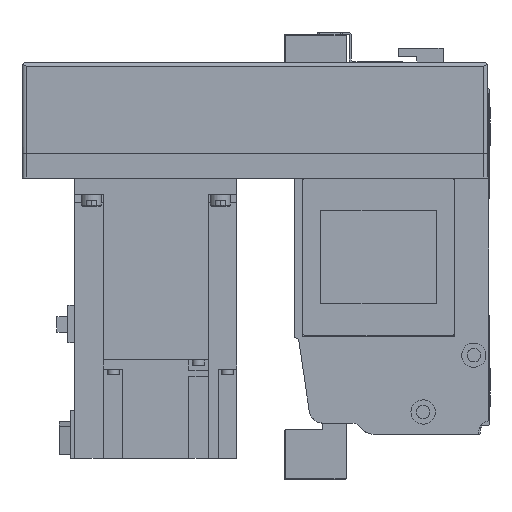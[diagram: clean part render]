
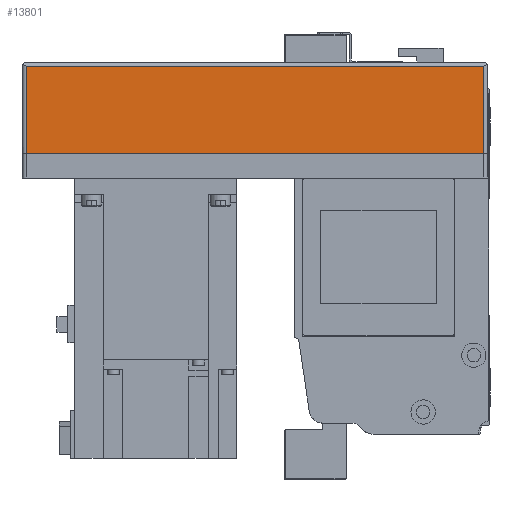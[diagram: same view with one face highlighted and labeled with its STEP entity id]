
A CAD part, left-side view. The second image highlights one B-rep face of the part: STEP entity #13801.
In plain terms, the highlighted planar face has unit normal (-1, 0, 0) as drawn and (0, 1, 0) by its records, which use the part's own axes.
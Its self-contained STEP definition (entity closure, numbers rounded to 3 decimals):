
#2492=ORIENTED_EDGE('',*,*,#5736,.F.);
#2493=ORIENTED_EDGE('',*,*,#5676,.T.);
#2494=ORIENTED_EDGE('',*,*,#5737,.F.);
#2495=ORIENTED_EDGE('',*,*,#5671,.F.);
#5671=EDGE_CURVE('',#7442,#7443,#8888,.T.);
#5676=EDGE_CURVE('',#7448,#7447,#8890,.T.);
#5736=EDGE_CURVE('',#7448,#7442,#8933,.T.);
#5737=EDGE_CURVE('',#7443,#7447,#8934,.T.);
#7442=VERTEX_POINT('',#21592);
#7443=VERTEX_POINT('',#21594);
#7447=VERTEX_POINT('',#21603);
#7448=VERTEX_POINT('',#21605);
#8888=LINE('',#21593,#10201);
#8890=LINE('',#21604,#10203);
#8933=LINE('',#21727,#10246);
#8934=LINE('',#21728,#10247);
#10201=VECTOR('',#17253,1000.);
#10203=VECTOR('',#17263,1000.);
#10246=VECTOR('',#17384,1000.);
#10247=VECTOR('',#17385,1000.);
#11354=EDGE_LOOP('',(#2492,#2493,#2494,#2495));
#12369=FACE_BOUND('',#11354,.T.);
#13216=PLANE('',#14828);
#13801=ADVANCED_FACE('',(#12369),#13216,.T.);
#14828=AXIS2_PLACEMENT_3D('',#21726,#17382,#17383);
#17253=DIRECTION('',(0.,0.,1.));
#17263=DIRECTION('',(0.,0.,1.));
#17382=DIRECTION('',(0.,1.,0.));
#17383=DIRECTION('',(0.,0.,1.));
#17384=DIRECTION('',(1.,0.,0.));
#17385=DIRECTION('',(-1.,0.,0.));
#21592=CARTESIAN_POINT('',(-2.,54.,-55.));
#21593=CARTESIAN_POINT('',(-2.,54.,-57.));
#21594=CARTESIAN_POINT('',(-2.,54.,-12.));
#21603=CARTESIAN_POINT('',(-228.,54.,-12.));
#21604=CARTESIAN_POINT('',(-228.,54.,-57.));
#21605=CARTESIAN_POINT('',(-228.,54.,-55.));
#21726=CARTESIAN_POINT('',(-2.,54.,-57.));
#21727=CARTESIAN_POINT('',(-230.,54.,-55.));
#21728=CARTESIAN_POINT('',(-2.,54.,-12.));
